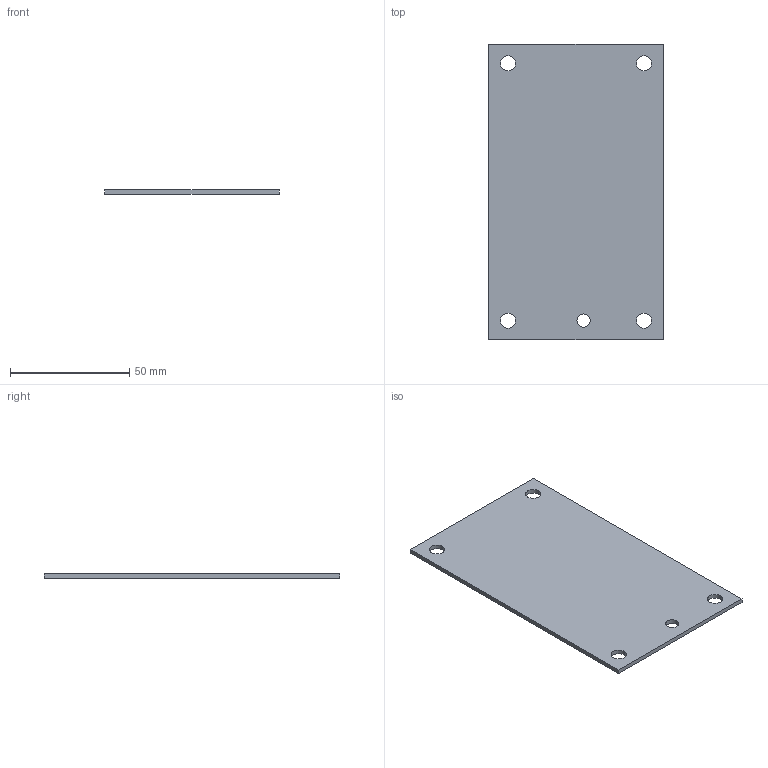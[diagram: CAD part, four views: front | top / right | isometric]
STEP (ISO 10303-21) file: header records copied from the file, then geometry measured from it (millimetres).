
FILE_DESCRIPTION (( 'STEP AP203' ), '1' );
FILE_NAME ('a6p4.STEP', '2008-12-15T15:03:46', ( '' ), ( '' ), 'SwSTEP 2.0', 'SolidWorks 2007', '' );
FILE_SCHEMA (( 'CONFIG_CONTROL_DESIGN' ));
Length unit declared in the file: inch
Products named in the file (1): a6p4
Bounding box: 73.15 x 123.95 x 1.83 mm (x, y, z)
Volume: 16306.2 mm3; surface area: 18731.5 mm2
Topology: 1 solids, 1 shells, 16 faces, 42 edges, 28 vertices
Faces by surface type: cylinder 10, plane 6
Entity records: 605 total; most frequent: DIRECTION 96, CARTESIAN_POINT 87, ORIENTED_EDGE 84, EDGE_CURVE 42, AXIS2_PLACEMENT_3D 37, VERTEX_POINT 28, EDGE_LOOP 26, LINE 22
